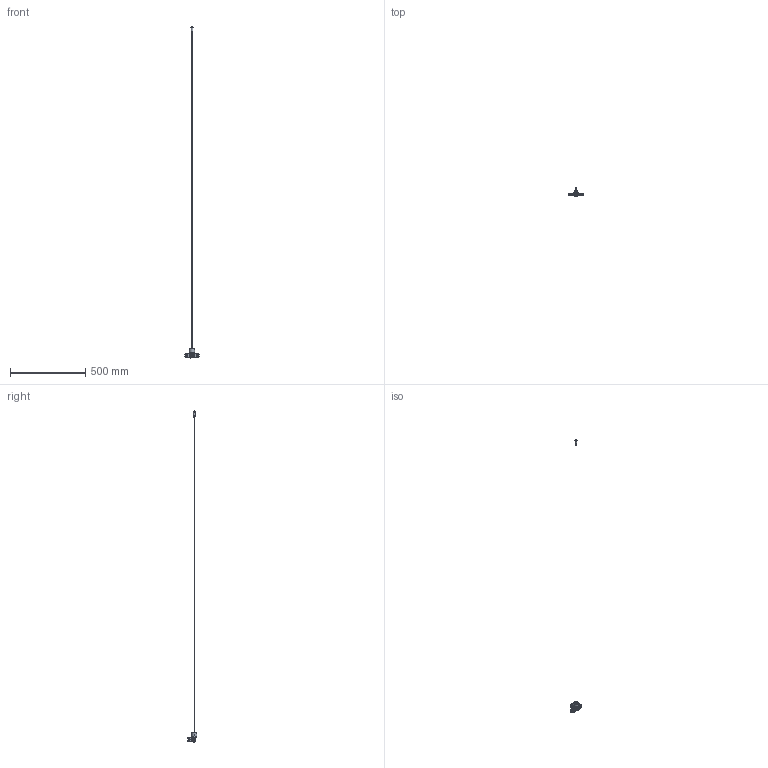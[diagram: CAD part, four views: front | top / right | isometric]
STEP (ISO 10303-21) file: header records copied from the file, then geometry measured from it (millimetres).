
FILE_DESCRIPTION(/* description */ (''),/* implementation_level */ '2;1');
FILE_NAME(/* name */ 'AY710XX.stp',/* time_stamp */ '2022-09-09T14:06:48+02:00',/* author */ (''),/* organization */ (''),/* preprocessor_version */ 'ST-DEVELOPER v16.7',/* originating_system */ 'SIEMENS PLM Software NX 1911',/* authorisation */ '');
FILE_SCHEMA (('AUTOMOTIVE_DESIGN { 1 0 10303 214 3 1 1 1 }'));
Products named in the file (16): X303000024_-; X305000014_-; Y104003731_A; Y104003730_A; Y104003710_A; Y104003709_B; Y104003702_C; Y201002826_A; Y201002824_A; Y104003704_A; Y104003703_A; Y101001222_A; Y101001221_A; Y106300011_A; X304000029_-; AY7X0ZZ_D
Assembly tree (22 placements, depth 2):
  AY7X0ZZ_D
    X304000029_-
    Y106300011_A
    Y101001221_A  x2
    Y101001222_A
    Y104003703_A
    Y104003704_A
    Y201002824_A  x3
    Y201002826_A  x3
    Y104003702_C
    Y104003709_B
    Y104003710_A
    Y104003730_A
    Y104003731_A
    X305000014_-  x3
    X303000024_-
Bounding box: 94.86 x 64.93 x 2209.08 mm (x, y, z)
Volume: 45165 mm3; surface area: 53974.2 mm2
Topology: 22 solids, 22 shells, 3819 faces, 9367 edges, 5496 vertices
Faces by surface type: bspline 1648, cylinder 1008, plane 649, cone 263, torus 215, sphere 36
Full cylindrical faces by diameter (mm): 1 x1, 2 x1, 3.2 x1, 3.25 x1, 3.8 x1, 4 x5, 5 x1, 5.5 x1, 6 x2, 6.2 x1, 11.4 x1, 12 x2, 16 x1, 20 x1, 34 x2
Entity records: 136651 total; most frequent: CARTESIAN_POINT 93987, ORIENTED_EDGE 10598, DIRECTION 6192, EDGE_CURVE 5299, VERTEX_POINT 3156, AXIS2_PLACEMENT_3D 2391, EDGE_LOOP 2298, ADVANCED_FACE 2212
